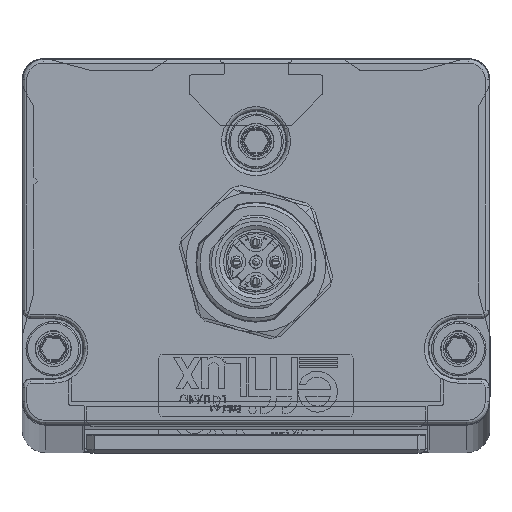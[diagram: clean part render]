
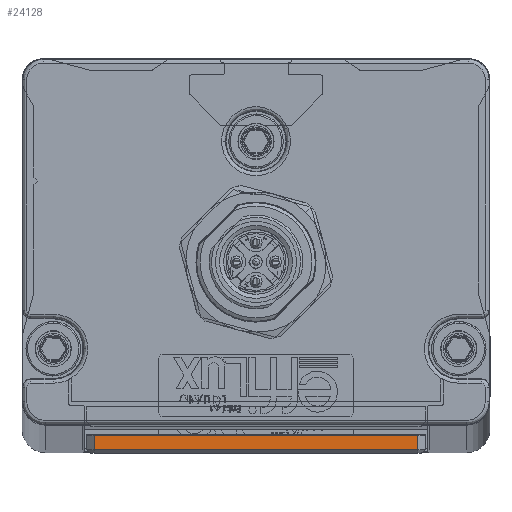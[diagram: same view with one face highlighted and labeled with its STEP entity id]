
A CAD part, top view. The second image highlights one B-rep face of the part: STEP entity #24128.
In plain terms, the highlighted planar face has unit normal (0, 0, 1) as drawn and (0, 0, -1) by its records, which use the part's own axes.
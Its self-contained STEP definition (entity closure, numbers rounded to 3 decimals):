
#609 = ORIENTED_EDGE ( 'NONE', *, *, #20168, .T. ) ;
#884 = VECTOR ( 'NONE', #13615, 1000. ) ;
#4489 = ORIENTED_EDGE ( 'NONE', *, *, #33460, .T. ) ;
#4718 = FACE_OUTER_BOUND ( 'NONE', #7957, .T. ) ;
#7957 = EDGE_LOOP ( 'NONE', ( #4489, #609, #31616, #32171 ) ) ;
#9563 = VERTEX_POINT ( 'NONE', #21141 ) ;
#12876 = LINE ( 'NONE', #46453, #884 ) ;
#13615 = DIRECTION ( 'NONE',  ( 0., -1., 0. ) ) ;
#19254 = CARTESIAN_POINT ( 'NONE',  ( 20.75, 46.527, -6.5 ) ) ;
#19327 = DIRECTION ( 'NONE',  ( 0., 0., -1. ) ) ;
#20168 = EDGE_CURVE ( 'NONE', #40359, #9563, #45184, .T. ) ;
#20399 = VECTOR ( 'NONE', #22974, 1000. ) ;
#20795 = LINE ( 'NONE', #21034, #23846 ) ;
#21034 = CARTESIAN_POINT ( 'NONE',  ( -20.75, 46.8, -6.5 ) ) ;
#21141 = CARTESIAN_POINT ( 'NONE',  ( -20.75, 44.666, -6.5 ) ) ;
#22974 = DIRECTION ( 'NONE',  ( 1., 0., 0. ) ) ;
#23102 = VERTEX_POINT ( 'NONE', #24233 ) ;
#23846 = VECTOR ( 'NONE', #42978, 1000. ) ;
#24018 = PLANE ( 'NONE',  #33206 ) ;
#24128 = ADVANCED_FACE ( 'NONE', ( #4718 ), #24018, .T. ) ;
#24233 = CARTESIAN_POINT ( 'NONE',  ( -20.75, 46.527, -6.5 ) ) ;
#27430 = VECTOR ( 'NONE', #37758, 1000. ) ;
#27445 = CARTESIAN_POINT ( 'NONE',  ( 0., 0., -6.5 ) ) ;
#28004 = VERTEX_POINT ( 'NONE', #40820 ) ;
#31616 = ORIENTED_EDGE ( 'NONE', *, *, #41877, .T. ) ;
#32171 = ORIENTED_EDGE ( 'NONE', *, *, #37794, .T. ) ;
#33206 = AXIS2_PLACEMENT_3D ( 'NONE', #27445, #19327, #42479 ) ;
#33460 = EDGE_CURVE ( 'NONE', #28004, #40359, #12876, .T. ) ;
#34284 = LINE ( 'NONE', #19254, #20399 ) ;
#37758 = DIRECTION ( 'NONE',  ( -1., 0., 0. ) ) ;
#37794 = EDGE_CURVE ( 'NONE', #23102, #28004, #34284, .T. ) ;
#38169 = CARTESIAN_POINT ( 'NONE',  ( 20.75, 44.666, -6.5 ) ) ;
#40359 = VERTEX_POINT ( 'NONE', #38169 ) ;
#40820 = CARTESIAN_POINT ( 'NONE',  ( 20.75, 46.527, -6.5 ) ) ;
#41877 = EDGE_CURVE ( 'NONE', #9563, #23102, #20795, .T. ) ;
#42479 = DIRECTION ( 'NONE',  ( -1., 0., 0. ) ) ;
#42978 = DIRECTION ( 'NONE',  ( 0., 1., 0. ) ) ;
#44947 = CARTESIAN_POINT ( 'NONE',  ( 0., 44.666, -6.5 ) ) ;
#45184 = LINE ( 'NONE', #44947, #27430 ) ;
#46453 = CARTESIAN_POINT ( 'NONE',  ( 20.75, 44.5, -6.5 ) ) ;
